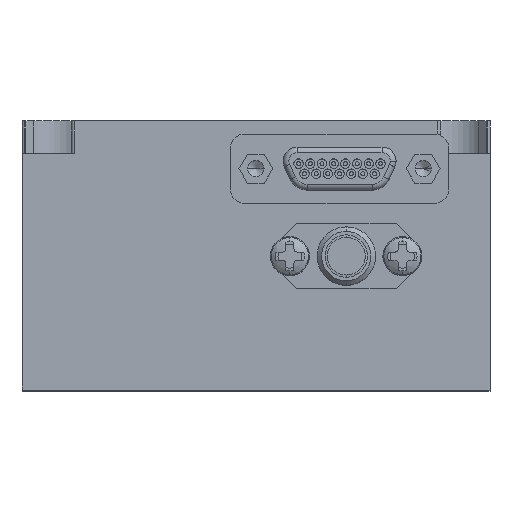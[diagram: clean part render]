
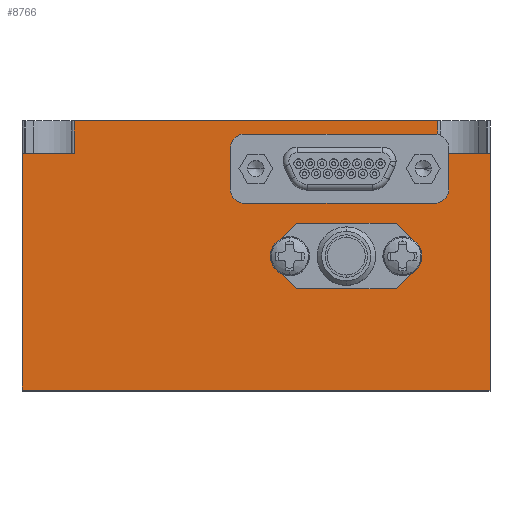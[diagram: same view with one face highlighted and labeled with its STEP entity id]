
A CAD part, top view. The second image highlights one B-rep face of the part: STEP entity #8766.
In plain terms, the highlighted planar face has unit normal (0, 0, 1).
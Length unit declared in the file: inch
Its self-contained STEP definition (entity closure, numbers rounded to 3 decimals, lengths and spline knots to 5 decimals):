
#191 = VECTOR ( 'NONE', #4508, 39.37008 ) ;
#348 = DIRECTION ( 'NONE',  ( -1., 0., 0. ) ) ;
#498 = ORIENTED_EDGE ( 'NONE', *, *, #7915, .F. ) ;
#933 = EDGE_CURVE ( 'NONE', #2669, #7249, #2047, .T. ) ;
#1156 = VERTEX_POINT ( 'NONE', #26342 ) ;
#1373 = ORIENTED_EDGE ( 'NONE', *, *, #9346, .T. ) ;
#1415 = DIRECTION ( 'NONE',  ( 1., 0., 0. ) ) ;
#1848 = EDGE_CURVE ( 'NONE', #3046, #2669, #23167, .T. ) ;
#1899 = LINE ( 'NONE', #15177, #191 ) ;
#2047 = LINE ( 'NONE', #25065, #18231 ) ;
#2096 = VECTOR ( 'NONE', #12777, 39.37008 ) ;
#2669 = VERTEX_POINT ( 'NONE', #25580 ) ;
#3010 = VECTOR ( 'NONE', #27459, 39.37008 ) ;
#3046 = VERTEX_POINT ( 'NONE', #6243 ) ;
#3756 = ORIENTED_EDGE ( 'NONE', *, *, #14668, .F. ) ;
#4175 = ORIENTED_EDGE ( 'NONE', *, *, #23713, .F. ) ;
#4274 = CARTESIAN_POINT ( 'NONE',  ( -2., 0., 1.5 ) ) ;
#4508 = DIRECTION ( 'NONE',  ( 1., 0., 0. ) ) ;
#5057 = CARTESIAN_POINT ( 'NONE',  ( 0., 1.0106, 1.5 ) ) ;
#5882 = EDGE_LOOP ( 'NONE', ( #5987, #498, #27529, #25322, #23100, #1373, #3756, #4175 ) ) ;
#5987 = ORIENTED_EDGE ( 'NONE', *, *, #26241, .T. ) ;
#6243 = CARTESIAN_POINT ( 'NONE',  ( -2., 1.0106, 1.5 ) ) ;
#6605 = VECTOR ( 'NONE', #13872, 39.37008 ) ;
#6610 = LINE ( 'NONE', #17124, #14457 ) ;
#7249 = VERTEX_POINT ( 'NONE', #21121 ) ;
#7469 = VERTEX_POINT ( 'NONE', #10751 ) ;
#7567 = CARTESIAN_POINT ( 'NONE',  ( -2., 1.0106, 1.5 ) ) ;
#7855 = EDGE_CURVE ( 'NONE', #3046, #25215, #14958, .T. ) ;
#7915 = EDGE_CURVE ( 'NONE', #7249, #7469, #18560, .T. ) ;
#8766 = ADVANCED_FACE ( 'NONE', ( #26450 ), #13648, .F. ) ;
#9238 = DIRECTION ( 'NONE',  ( 0., 0., -1. ) ) ;
#9346 = EDGE_CURVE ( 'NONE', #25215, #1156, #1899, .T. ) ;
#10751 = CARTESIAN_POINT ( 'NONE',  ( -0.22302, 1.1506, 1.5 ) ) ;
#11435 = AXIS2_PLACEMENT_3D ( 'NONE', #17706, #9238, #348 ) ;
#12081 = LINE ( 'NONE', #14570, #19905 ) ;
#12777 = DIRECTION ( 'NONE',  ( 0., -1., 0. ) ) ;
#13648 = PLANE ( 'NONE',  #11435 ) ;
#13872 = DIRECTION ( 'NONE',  ( 1., 0., 0. ) ) ;
#14399 = DIRECTION ( 'NONE',  ( 0., -1., 0. ) ) ;
#14457 = VECTOR ( 'NONE', #23676, 39.37008 ) ;
#14570 = CARTESIAN_POINT ( 'NONE',  ( 0., 1.0106, 1.5 ) ) ;
#14668 = EDGE_CURVE ( 'NONE', #27961, #1156, #23262, .T. ) ;
#14958 = LINE ( 'NONE', #23830, #2096 ) ;
#15177 = CARTESIAN_POINT ( 'NONE',  ( -2., 0., 1.5 ) ) ;
#15555 = CARTESIAN_POINT ( 'NONE',  ( -0.22302, 1.0106, 1.5 ) ) ;
#17117 = VERTEX_POINT ( 'NONE', #15555 ) ;
#17124 = CARTESIAN_POINT ( 'NONE',  ( -0.22302, 1.0106, 1.5 ) ) ;
#17159 = VECTOR ( 'NONE', #14399, 39.37008 ) ;
#17706 = CARTESIAN_POINT ( 'NONE',  ( -2., 1.1506, 1.5 ) ) ;
#18231 = VECTOR ( 'NONE', #25358, 39.37008 ) ;
#18321 = CARTESIAN_POINT ( 'NONE',  ( 0., 1.1506, 1.5 ) ) ;
#18560 = LINE ( 'NONE', #22654, #3010 ) ;
#19905 = VECTOR ( 'NONE', #1415, 39.37008 ) ;
#21121 = CARTESIAN_POINT ( 'NONE',  ( -1.77698, 1.1506, 1.5 ) ) ;
#22654 = CARTESIAN_POINT ( 'NONE',  ( -2., 1.1506, 1.5 ) ) ;
#23100 = ORIENTED_EDGE ( 'NONE', *, *, #7855, .T. ) ;
#23167 = LINE ( 'NONE', #7567, #6605 ) ;
#23262 = LINE ( 'NONE', #18321, #17159 ) ;
#23676 = DIRECTION ( 'NONE',  ( 0., 1., 0. ) ) ;
#23713 = EDGE_CURVE ( 'NONE', #17117, #27961, #12081, .T. ) ;
#23830 = CARTESIAN_POINT ( 'NONE',  ( -2., 1.1506, 1.5 ) ) ;
#25065 = CARTESIAN_POINT ( 'NONE',  ( -1.77698, 1.0106, 1.5 ) ) ;
#25215 = VERTEX_POINT ( 'NONE', #4274 ) ;
#25322 = ORIENTED_EDGE ( 'NONE', *, *, #1848, .F. ) ;
#25358 = DIRECTION ( 'NONE',  ( 0., 1., 0. ) ) ;
#25580 = CARTESIAN_POINT ( 'NONE',  ( -1.77698, 1.0106, 1.5 ) ) ;
#26241 = EDGE_CURVE ( 'NONE', #17117, #7469, #6610, .T. ) ;
#26342 = CARTESIAN_POINT ( 'NONE',  ( 0., 0., 1.5 ) ) ;
#26450 = FACE_OUTER_BOUND ( 'NONE', #5882, .T. ) ;
#27459 = DIRECTION ( 'NONE',  ( 1., 0., 0. ) ) ;
#27529 = ORIENTED_EDGE ( 'NONE', *, *, #933, .F. ) ;
#27961 = VERTEX_POINT ( 'NONE', #5057 ) ;
